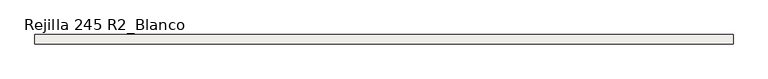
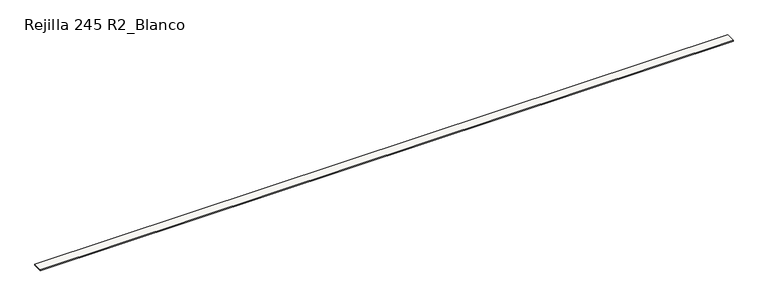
"""IFC4 building model written with IfcOpenShell, lengths in millimetres: slab geometry, ROSA GRES_245 R2 : Rejilla 245 R2_Blanco."""

from ifc_helpers import new_model, si_unit, frame, origin, place, context, project, spatial, polyline, outline, extrude, source, transform, mapped, element, save


def rejilla_245_r2_blanco_04524578(model_context):
    return source(origin(), model_context, "Body", "SweptSolid", [
        extrude(outline(polyline([(-369.5908797, 206.3460936), (-411.8675475, 206.3460936), (-422.8675475, 195.3460936), (-561.3142119, 195.3460936), (-572.3142119, 206.3460936), (-614.5908797, 206.3460936), (-614.5908797, 228.3460936), (-369.5908797, 228.3460936), (-369.5908797, 206.3460936)])), frame((0.0, 0.0, 0.0), z_axis=(1.0, 0.0, 0.0), x_axis=(0.0, 1.0, 0.0)), (0.0, 0.0, 1.0), 17989.9908744),
    ])


if __name__ == "__main__":
    model = new_model("IFC4")
    model_context = context("Model", 3, world=origin())
    ifc_project = project(units=[si_unit("LENGTHUNIT", "METRE", prefix="MILLI")], contexts=[model_context])
    site = spatial("IfcSite", under=ifc_project)
    building = spatial("IfcBuilding", under=site)
    placement = place(None, origin())
    rejilla_245_r2_blanco_shape = rejilla_245_r2_blanco_04524578(model_context)
    element("IfcSlab", 1, ObjectType="ROSA GRES_245 R2 : Rejilla 245 R2_Blanco", at=placement, inside=building, context=model_context, shape_type="MappedRepresentation", body=[
        mapped(rejilla_245_r2_blanco_shape, transform((0.0, 0.0, 0.0), x_axis=(1.0, 0.0, 0.0), y_axis=(0.0, 1.0, 0.0), z_axis=(0.0, 0.0, 1.0))),
    ])
    save(model, "model.ifc")
